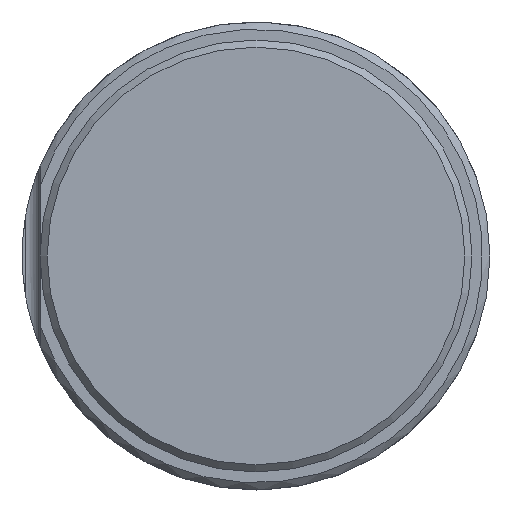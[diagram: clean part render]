
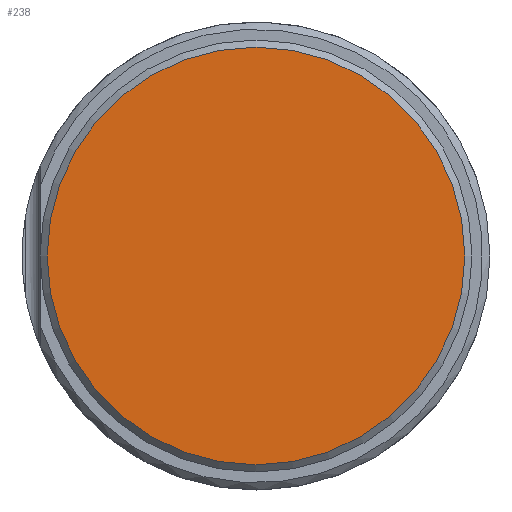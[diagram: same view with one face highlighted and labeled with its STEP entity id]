
A CAD part, left-side view. The second image highlights one B-rep face of the part: STEP entity #238.
In plain terms, the highlighted planar face has unit normal (-1, 0, 0).
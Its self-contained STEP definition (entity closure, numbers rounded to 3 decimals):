
#33=FACE_OUTER_BOUND('',#48,.T.);
#48=EDGE_LOOP('',(#182));
#87=CIRCLE('',#281,5.8);
#113=VERTEX_POINT('',#446);
#139=EDGE_CURVE('',#113,#113,#87,.T.);
#182=ORIENTED_EDGE('',*,*,#139,.F.);
#231=PLANE('',#280);
#238=ADVANCED_FACE('',(#33),#231,.T.);
#280=AXIS2_PLACEMENT_3D('',#445,#331,#332);
#281=AXIS2_PLACEMENT_3D('',#447,#333,#334);
#331=DIRECTION('center_axis',(-1.,0.,0.));
#332=DIRECTION('ref_axis',(0.,0.,1.));
#333=DIRECTION('center_axis',(1.,0.,0.));
#334=DIRECTION('ref_axis',(0.,0.,-1.));
#445=CARTESIAN_POINT('Origin',(-30.,5.8,0.));
#446=CARTESIAN_POINT('',(-30.,-5.8,0.));
#447=CARTESIAN_POINT('Origin',(-30.,0.,0.));
